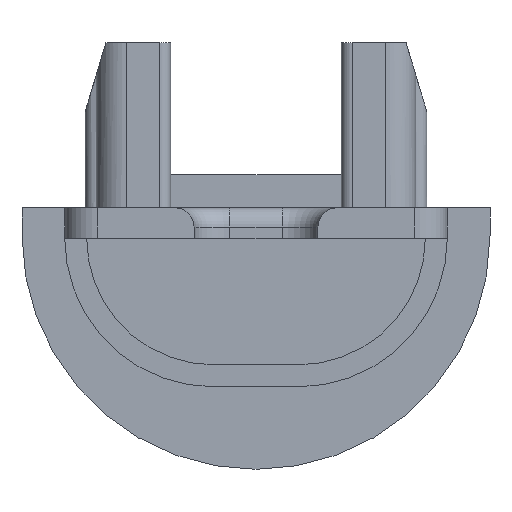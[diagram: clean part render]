
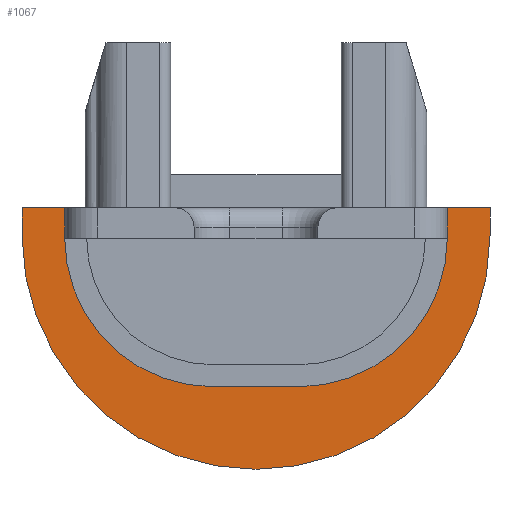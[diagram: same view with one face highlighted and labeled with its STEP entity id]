
A CAD part, front view. The second image highlights one B-rep face of the part: STEP entity #1067.
In plain terms, the highlighted planar face has unit normal (0, -1, 0).
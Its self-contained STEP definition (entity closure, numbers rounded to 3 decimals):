
#61 = AXIS2_PLACEMENT_3D ( 'NONE', #1797, #1062, #1820 ) ;
#63 = VECTOR ( 'NONE', #922, 1000. ) ;
#93 = CARTESIAN_POINT ( 'NONE',  ( 6.95, 0., 0. ) ) ;
#120 = CARTESIAN_POINT ( 'NONE',  ( -6.95, 0., 0. ) ) ;
#170 = CARTESIAN_POINT ( 'NONE',  ( 1.55, 0., -6.5 ) ) ;
#185 = EDGE_LOOP ( 'NONE', ( #2127, #380, #1609, #413, #824, #1772, #1940, #2169, #1752, #2341, #496 ) ) ;
#239 = EDGE_CURVE ( 'NONE', #288, #486, #2045, .T. ) ;
#279 = LINE ( 'NONE', #1018, #2251 ) ;
#288 = VERTEX_POINT ( 'NONE', #93 ) ;
#301 = VECTOR ( 'NONE', #2119, 1000. ) ;
#346 = CARTESIAN_POINT ( 'NONE',  ( -6.95, 0., -1.1 ) ) ;
#380 = ORIENTED_EDGE ( 'NONE', *, *, #1287, .T. ) ;
#394 = EDGE_CURVE ( 'NONE', #2121, #1954, #877, .T. ) ;
#413 = ORIENTED_EDGE ( 'NONE', *, *, #655, .F. ) ;
#415 = CARTESIAN_POINT ( 'NONE',  ( -1.55, 0., -1.1 ) ) ;
#421 = VECTOR ( 'NONE', #894, 1000. ) ;
#486 = VERTEX_POINT ( 'NONE', #497 ) ;
#496 = ORIENTED_EDGE ( 'NONE', *, *, #962, .F. ) ;
#497 = CARTESIAN_POINT ( 'NONE',  ( 8.5, 0., 0. ) ) ;
#519 = CARTESIAN_POINT ( 'NONE',  ( 0., 0., -1. ) ) ;
#571 = VECTOR ( 'NONE', #2222, 1000. ) ;
#613 = AXIS2_PLACEMENT_3D ( 'NONE', #2204, #1139, #2052 ) ;
#629 = DIRECTION ( 'NONE',  ( 0., -1., 0. ) ) ;
#655 = EDGE_CURVE ( 'NONE', #1954, #970, #783, .T. ) ;
#687 = AXIS2_PLACEMENT_3D ( 'NONE', #519, #2028, #2161 ) ;
#707 = PLANE ( 'NONE',  #687 ) ;
#713 = DIRECTION ( 'NONE',  ( 0., 0., 1. ) ) ;
#752 = EDGE_CURVE ( 'NONE', #1309, #288, #279, .T. ) ;
#765 = VERTEX_POINT ( 'NONE', #1425 ) ;
#783 = LINE ( 'NONE', #968, #301 ) ;
#815 = VERTEX_POINT ( 'NONE', #1452 ) ;
#824 = ORIENTED_EDGE ( 'NONE', *, *, #394, .F. ) ;
#877 = CIRCLE ( 'NONE', #2096, 8.5 ) ;
#883 = DIRECTION ( 'NONE',  ( 0., 1., 0. ) ) ;
#894 = DIRECTION ( 'NONE',  ( 1., 0., 0. ) ) ;
#922 = DIRECTION ( 'NONE',  ( 0., 0., 1. ) ) ;
#924 = CARTESIAN_POINT ( 'NONE',  ( -8.5, 0., 0. ) ) ;
#948 = CARTESIAN_POINT ( 'NONE',  ( 0., 0., -9.5 ) ) ;
#959 = CIRCLE ( 'NONE', #613, 5.4 ) ;
#962 = EDGE_CURVE ( 'NONE', #1688, #2329, #1218, .T. ) ;
#968 = CARTESIAN_POINT ( 'NONE',  ( -8.5, 0., -1. ) ) ;
#970 = VERTEX_POINT ( 'NONE', #1942 ) ;
#999 = VECTOR ( 'NONE', #2309, 1000. ) ;
#1018 = CARTESIAN_POINT ( 'NONE',  ( 6.95, 0., -1.1 ) ) ;
#1024 = EDGE_CURVE ( 'NONE', #815, #2121, #1907, .T. ) ;
#1062 = DIRECTION ( 'NONE',  ( 0., 1., 0. ) ) ;
#1067 = ADVANCED_FACE ( 'NONE', ( #1833 ), #707, .F. ) ;
#1069 = LINE ( 'NONE', #346, #63 ) ;
#1139 = DIRECTION ( 'NONE',  ( 0., -1., 0. ) ) ;
#1187 = VERTEX_POINT ( 'NONE', #120 ) ;
#1218 = LINE ( 'NONE', #1782, #999 ) ;
#1287 = EDGE_CURVE ( 'NONE', #765, #1187, #1069, .T. ) ;
#1296 = CARTESIAN_POINT ( 'NONE',  ( 6.95, 0., -1.1 ) ) ;
#1301 = EDGE_CURVE ( 'NONE', #486, #815, #1489, .T. ) ;
#1309 = VERTEX_POINT ( 'NONE', #1296 ) ;
#1354 = CARTESIAN_POINT ( 'NONE',  ( -1.55, 0., -6.5 ) ) ;
#1425 = CARTESIAN_POINT ( 'NONE',  ( -6.95, 0., -1.1 ) ) ;
#1452 = CARTESIAN_POINT ( 'NONE',  ( 8.5, 0., -1. ) ) ;
#1489 = LINE ( 'NONE', #2054, #571 ) ;
#1504 = EDGE_CURVE ( 'NONE', #2329, #1309, #959, .T. ) ;
#1608 = CARTESIAN_POINT ( 'NONE',  ( 0., 0., -1. ) ) ;
#1609 = ORIENTED_EDGE ( 'NONE', *, *, #1917, .F. ) ;
#1649 = CARTESIAN_POINT ( 'NONE',  ( -8.5, 0., -1. ) ) ;
#1684 = DIRECTION ( 'NONE',  ( 1., 0., 0. ) ) ;
#1688 = VERTEX_POINT ( 'NONE', #1354 ) ;
#1752 = ORIENTED_EDGE ( 'NONE', *, *, #752, .F. ) ;
#1772 = ORIENTED_EDGE ( 'NONE', *, *, #1024, .F. ) ;
#1774 = DIRECTION ( 'NONE',  ( 0., 0., 1. ) ) ;
#1782 = CARTESIAN_POINT ( 'NONE',  ( -1.55, 0., -6.5 ) ) ;
#1797 = CARTESIAN_POINT ( 'NONE',  ( 0., 0., -1. ) ) ;
#1820 = DIRECTION ( 'NONE',  ( 0., 0., 1. ) ) ;
#1833 = FACE_OUTER_BOUND ( 'NONE', #185, .T. ) ;
#1837 = AXIS2_PLACEMENT_3D ( 'NONE', #415, #629, #2097 ) ;
#1855 = LINE ( 'NONE', #2203, #421 ) ;
#1863 = VECTOR ( 'NONE', #1684, 1000. ) ;
#1907 = CIRCLE ( 'NONE', #61, 8.5 ) ;
#1917 = EDGE_CURVE ( 'NONE', #970, #1187, #1855, .T. ) ;
#1940 = ORIENTED_EDGE ( 'NONE', *, *, #1301, .F. ) ;
#1942 = CARTESIAN_POINT ( 'NONE',  ( -8.5, 0., 0. ) ) ;
#1953 = CIRCLE ( 'NONE', #1837, 5.4 ) ;
#1954 = VERTEX_POINT ( 'NONE', #1649 ) ;
#2028 = DIRECTION ( 'NONE',  ( 0., 1., 0. ) ) ;
#2036 = EDGE_CURVE ( 'NONE', #765, #1688, #1953, .T. ) ;
#2045 = LINE ( 'NONE', #924, #1863 ) ;
#2052 = DIRECTION ( 'NONE',  ( 0., 0., 1. ) ) ;
#2054 = CARTESIAN_POINT ( 'NONE',  ( 8.5, 0., -1. ) ) ;
#2096 = AXIS2_PLACEMENT_3D ( 'NONE', #1608, #883, #713 ) ;
#2097 = DIRECTION ( 'NONE',  ( 0., 0., -1. ) ) ;
#2119 = DIRECTION ( 'NONE',  ( 0., 0., 1. ) ) ;
#2121 = VERTEX_POINT ( 'NONE', #948 ) ;
#2127 = ORIENTED_EDGE ( 'NONE', *, *, #2036, .F. ) ;
#2161 = DIRECTION ( 'NONE',  ( 0., 0., 1. ) ) ;
#2169 = ORIENTED_EDGE ( 'NONE', *, *, #239, .F. ) ;
#2203 = CARTESIAN_POINT ( 'NONE',  ( -8.5, 0., 0. ) ) ;
#2204 = CARTESIAN_POINT ( 'NONE',  ( 1.55, 0., -1.1 ) ) ;
#2222 = DIRECTION ( 'NONE',  ( 0., 0., -1. ) ) ;
#2251 = VECTOR ( 'NONE', #1774, 1000. ) ;
#2309 = DIRECTION ( 'NONE',  ( 1., 0., 0. ) ) ;
#2329 = VERTEX_POINT ( 'NONE', #170 ) ;
#2341 = ORIENTED_EDGE ( 'NONE', *, *, #1504, .F. ) ;
